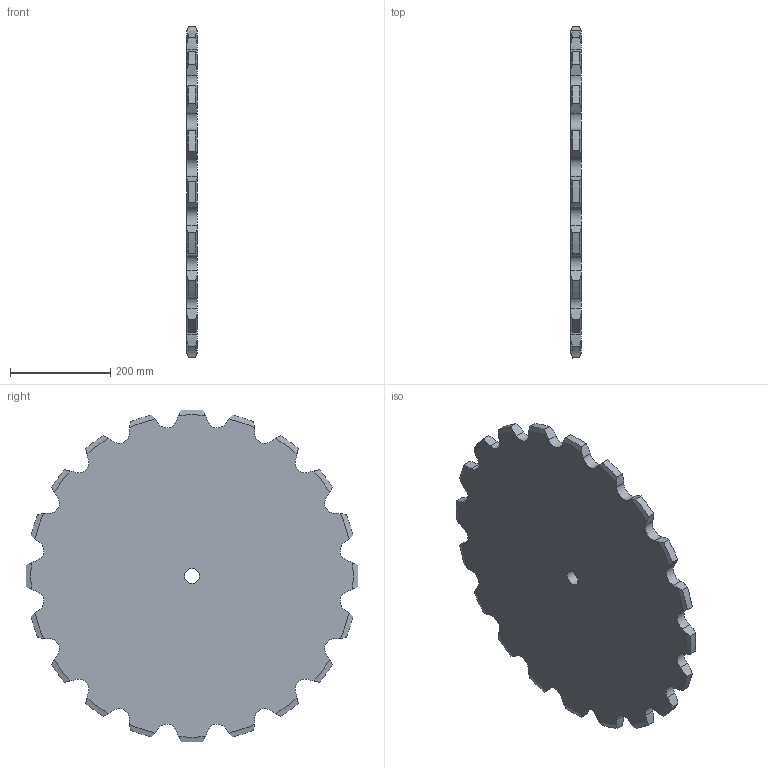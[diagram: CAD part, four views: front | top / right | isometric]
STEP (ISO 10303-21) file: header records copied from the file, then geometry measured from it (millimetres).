
FILE_DESCRIPTION(/* description */ (''),/* implementation_level */ '2;1');
FILE_NAME(/* name */ 'C:\Users\stagistaCAD\Desktop\24994020.stp',/* time_stamp */ '2018-06-26T09:16:57+02:00',/* author */ ('stagistacad'),/* organization */ (''),/* preprocessor_version */ 'ST-DEVELOPER v15.6',/* originating_system */ 'Autodesk Inventor 2015',/* authorisation */ '');
FILE_SCHEMA (('AUTOMOTIVE_DESIGN { 1 0 10303 214 3 1 1 }'));
Length unit declared in the file: millimetre
Products named in the file (1): 24994020
Bounding box: 20 x 662.84 x 662.84 mm (x, y, z)
Volume: 6358834.6 mm3; surface area: 688627.3 mm2
Topology: 1 solids, 1 shells, 123 faces, 363 edges, 242 vertices
Faces by surface type: cylinder 81, cone 40, plane 2
Full cylindrical faces by diameter (mm): 30 x1
Entity records: 4482 total; most frequent: CARTESIAN_POINT 1128, DIRECTION 732, ORIENTED_EDGE 724, EDGE_CURVE 362, AXIS2_PLACEMENT_3D 326, VERTEX_POINT 242, CIRCLE 202, EDGE_LOOP 126
